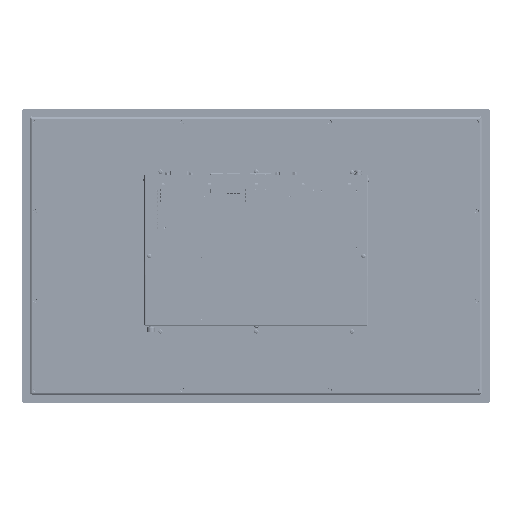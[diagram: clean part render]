
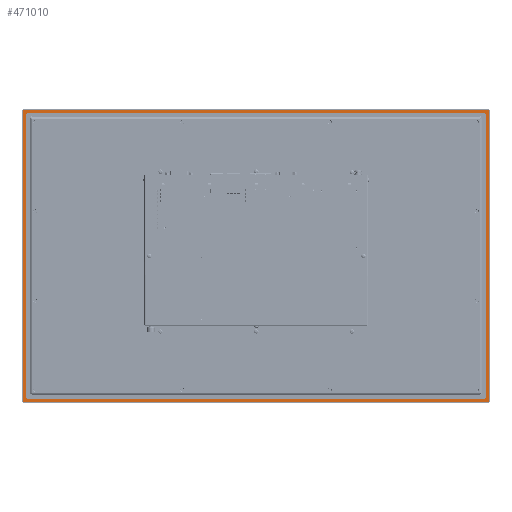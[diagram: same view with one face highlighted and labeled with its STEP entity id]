
A CAD part, front view. The second image highlights one B-rep face of the part: STEP entity #471010.
In plain terms, the highlighted planar face has unit normal (0, -1, 0).
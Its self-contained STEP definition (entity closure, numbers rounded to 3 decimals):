
#9182 = ORIENTED_EDGE ( 'NONE', *, *, #677158, .F. ) ;
#16903 = DIRECTION ( 'NONE',  ( 0., 0., -1. ) ) ;
#29912 = CIRCLE ( 'NONE', #445713, 1. ) ;
#51192 = VECTOR ( 'NONE', #81124, 1000. ) ;
#62782 = LINE ( 'NONE', #727851, #500385 ) ;
#68902 = EDGE_CURVE ( 'NONE', #156977, #246669, #540032, .T. ) ;
#69997 = ORIENTED_EDGE ( 'NONE', *, *, #130875, .F. ) ;
#71321 = ORIENTED_EDGE ( 'NONE', *, *, #796669, .F. ) ;
#71703 = EDGE_CURVE ( 'NONE', #78787, #156977, #340877, .T. ) ;
#78787 = VERTEX_POINT ( 'NONE', #573883 ) ;
#81124 = DIRECTION ( 'NONE',  ( 0., 0., 1. ) ) ;
#85929 = VERTEX_POINT ( 'NONE', #157960 ) ;
#90030 = ORIENTED_EDGE ( 'NONE', *, *, #473868, .F. ) ;
#94276 = LINE ( 'NONE', #256615, #490088 ) ;
#99885 = LINE ( 'NONE', #767823, #771470 ) ;
#111621 = DIRECTION ( 'NONE',  ( 1., 0., 0. ) ) ;
#112781 = CARTESIAN_POINT ( 'NONE',  ( 313.75, 0.5, -190.5 ) ) ;
#117213 = CARTESIAN_POINT ( 'NONE',  ( 318.75, 0.5, 201.5 ) ) ;
#119812 = EDGE_CURVE ( 'NONE', #387744, #671957, #391371, .T. ) ;
#123169 = ORIENTED_EDGE ( 'NONE', *, *, #173456, .F. ) ;
#125785 = DIRECTION ( 'NONE',  ( 0., -1., 0. ) ) ;
#130875 = EDGE_CURVE ( 'NONE', #247308, #713461, #758500, .T. ) ;
#134324 = ORIENTED_EDGE ( 'NONE', *, *, #411364, .F. ) ;
#153912 = CIRCLE ( 'NONE', #570922, 2. ) ;
#156977 = VERTEX_POINT ( 'NONE', #112781 ) ;
#157960 = CARTESIAN_POINT ( 'NONE',  ( 316.75, 0.5, -196.5 ) ) ;
#160614 = EDGE_CURVE ( 'NONE', #742429, #85929, #561798, .T. ) ;
#170498 = FACE_OUTER_BOUND ( 'NONE', #203375, .T. ) ;
#171119 = EDGE_CURVE ( 'NONE', #85929, #666106, #461410, .T. ) ;
#173456 = EDGE_CURVE ( 'NONE', #713461, #78787, #99885, .T. ) ;
#176280 = ORIENTED_EDGE ( 'NONE', *, *, #477402, .F. ) ;
#176489 = CARTESIAN_POINT ( 'NONE',  ( -316.75, 0.5, -196.5 ) ) ;
#190396 = DIRECTION ( 'NONE',  ( 0., -1., 0. ) ) ;
#192114 = VERTEX_POINT ( 'NONE', #323158 ) ;
#192663 = CARTESIAN_POINT ( 'NONE',  ( 316.75, 0.5, 203.5 ) ) ;
#201068 = VERTEX_POINT ( 'NONE', #516742 ) ;
#203375 = EDGE_LOOP ( 'NONE', ( #580602, #358013, #289883, #572632, #763947, #90030, #261939, #616983 ) ) ;
#210343 = AXIS2_PLACEMENT_3D ( 'NONE', #662105, #539671, #280722 ) ;
#224451 = DIRECTION ( 'NONE',  ( 0., 1., 0. ) ) ;
#246669 = VERTEX_POINT ( 'NONE', #410603 ) ;
#247308 = VERTEX_POINT ( 'NONE', #770338 ) ;
#256615 = CARTESIAN_POINT ( 'NONE',  ( -313.75, 0.5, 197.5 ) ) ;
#261939 = ORIENTED_EDGE ( 'NONE', *, *, #171119, .F. ) ;
#267883 = CARTESIAN_POINT ( 'NONE',  ( -318.75, 0.5, 201.5 ) ) ;
#270717 = DIRECTION ( 'NONE',  ( 1., 0., 0. ) ) ;
#280722 = DIRECTION ( 'NONE',  ( 0., 0., 1. ) ) ;
#289883 = ORIENTED_EDGE ( 'NONE', *, *, #119812, .F. ) ;
#294227 = DIRECTION ( 'NONE',  ( 0., 0., -1. ) ) ;
#318497 = DIRECTION ( 'NONE',  ( -1., 0., 0. ) ) ;
#323158 = CARTESIAN_POINT ( 'NONE',  ( -313.75, 0.5, 197.5 ) ) ;
#325941 = EDGE_CURVE ( 'NONE', #782439, #575791, #580285, .T. ) ;
#338912 = VECTOR ( 'NONE', #349625, 1000. ) ;
#340877 = CIRCLE ( 'NONE', #634464, 1. ) ;
#343925 = AXIS2_PLACEMENT_3D ( 'NONE', #503582, #190396, #318497 ) ;
#347235 = DIRECTION ( 'NONE',  ( 0., 0., 1. ) ) ;
#349625 = DIRECTION ( 'NONE',  ( -1., 0., 0. ) ) ;
#352570 = CARTESIAN_POINT ( 'NONE',  ( -316.75, 0.5, 201.5 ) ) ;
#358013 = ORIENTED_EDGE ( 'NONE', *, *, #489377, .F. ) ;
#361017 = CARTESIAN_POINT ( 'NONE',  ( 0., 0.5, 0. ) ) ;
#366934 = VECTOR ( 'NONE', #347235, 1000. ) ;
#387744 = VERTEX_POINT ( 'NONE', #814484 ) ;
#391371 = LINE ( 'NONE', #501358, #442023 ) ;
#399970 = AXIS2_PLACEMENT_3D ( 'NONE', #361017, #434895, #500286 ) ;
#410603 = CARTESIAN_POINT ( 'NONE',  ( 313.75, 0.5, 197.5 ) ) ;
#411364 = EDGE_CURVE ( 'NONE', #246669, #547420, #29912, .T. ) ;
#414007 = DIRECTION ( 'NONE',  ( 0., -1., 0. ) ) ;
#433897 = CIRCLE ( 'NONE', #707789, 1. ) ;
#434895 = DIRECTION ( 'NONE',  ( 0., -1., 0. ) ) ;
#441502 = CARTESIAN_POINT ( 'NONE',  ( 318.75, 0.5, 201.5 ) ) ;
#442023 = VECTOR ( 'NONE', #111621, 1000. ) ;
#445713 = AXIS2_PLACEMENT_3D ( 'NONE', #540748, #472493, #734000 ) ;
#455014 = CIRCLE ( 'NONE', #210343, 2. ) ;
#457931 = VERTEX_POINT ( 'NONE', #117213 ) ;
#461410 = LINE ( 'NONE', #483294, #338912 ) ;
#464286 = CARTESIAN_POINT ( 'NONE',  ( 316.75, 0.5, -194.5 ) ) ;
#471010 = ADVANCED_FACE ( 'NONE', ( #648902, #170498 ), #497472, .T. ) ;
#472493 = DIRECTION ( 'NONE',  ( 0., -1., 0. ) ) ;
#473868 = EDGE_CURVE ( 'NONE', #666106, #782439, #153912, .T. ) ;
#474924 = DIRECTION ( 'NONE',  ( 0., 1., 0. ) ) ;
#477402 = EDGE_CURVE ( 'NONE', #201068, #192114, #433897, .T. ) ;
#483294 = CARTESIAN_POINT ( 'NONE',  ( 316.75, 0.5, -196.5 ) ) ;
#489377 = EDGE_CURVE ( 'NONE', #671957, #457931, #455014, .T. ) ;
#489687 = CARTESIAN_POINT ( 'NONE',  ( 312.75, 0.5, 198.5 ) ) ;
#490088 = VECTOR ( 'NONE', #831276, 1000. ) ;
#495676 = LINE ( 'NONE', #441502, #841603 ) ;
#497472 = PLANE ( 'NONE',  #399970 ) ;
#500286 = DIRECTION ( 'NONE',  ( -1., 0., 0. ) ) ;
#500385 = VECTOR ( 'NONE', #828669, 1000. ) ;
#501358 = CARTESIAN_POINT ( 'NONE',  ( -316.75, 0.5, 203.5 ) ) ;
#503582 = CARTESIAN_POINT ( 'NONE',  ( -312.75, 0.5, -190.5 ) ) ;
#516742 = CARTESIAN_POINT ( 'NONE',  ( -312.75, 0.5, 198.5 ) ) ;
#538819 = ORIENTED_EDGE ( 'NONE', *, *, #71703, .F. ) ;
#539671 = DIRECTION ( 'NONE',  ( 0., 1., 0. ) ) ;
#540032 = LINE ( 'NONE', #745221, #366934 ) ;
#540748 = CARTESIAN_POINT ( 'NONE',  ( 312.75, 0.5, 197.5 ) ) ;
#547420 = VERTEX_POINT ( 'NONE', #489687 ) ;
#551965 = EDGE_LOOP ( 'NONE', ( #123169, #69997, #9182, #176280, #71321, #134324, #574801, #538819 ) ) ;
#561798 = CIRCLE ( 'NONE', #653744, 2. ) ;
#570922 = AXIS2_PLACEMENT_3D ( 'NONE', #665568, #474924, #16903 ) ;
#572632 = ORIENTED_EDGE ( 'NONE', *, *, #738513, .F. ) ;
#573883 = CARTESIAN_POINT ( 'NONE',  ( 312.75, 0.5, -191.5 ) ) ;
#574801 = ORIENTED_EDGE ( 'NONE', *, *, #68902, .F. ) ;
#575791 = VERTEX_POINT ( 'NONE', #267883 ) ;
#577948 = DIRECTION ( 'NONE',  ( 0., 0., -1. ) ) ;
#580285 = LINE ( 'NONE', #669925, #51192 ) ;
#580602 = ORIENTED_EDGE ( 'NONE', *, *, #611256, .F. ) ;
#585854 = DIRECTION ( 'NONE',  ( 1., 0., 0. ) ) ;
#589033 = CARTESIAN_POINT ( 'NONE',  ( -312.75, 0.5, -191.5 ) ) ;
#611256 = EDGE_CURVE ( 'NONE', #457931, #742429, #495676, .T. ) ;
#616983 = ORIENTED_EDGE ( 'NONE', *, *, #160614, .F. ) ;
#622148 = AXIS2_PLACEMENT_3D ( 'NONE', #352570, #224451, #807516 ) ;
#634464 = AXIS2_PLACEMENT_3D ( 'NONE', #806219, #414007, #294227 ) ;
#639531 = CARTESIAN_POINT ( 'NONE',  ( -318.75, 0.5, -194.5 ) ) ;
#648902 = FACE_BOUND ( 'NONE', #551965, .T. ) ;
#653744 = AXIS2_PLACEMENT_3D ( 'NONE', #464286, #660493, #270717 ) ;
#660493 = DIRECTION ( 'NONE',  ( 0., 1., 0. ) ) ;
#662105 = CARTESIAN_POINT ( 'NONE',  ( 316.75, 0.5, 201.5 ) ) ;
#665568 = CARTESIAN_POINT ( 'NONE',  ( -316.75, 0.5, -194.5 ) ) ;
#666106 = VERTEX_POINT ( 'NONE', #176489 ) ;
#669925 = CARTESIAN_POINT ( 'NONE',  ( -318.75, 0.5, -194.5 ) ) ;
#671957 = VERTEX_POINT ( 'NONE', #192663 ) ;
#677158 = EDGE_CURVE ( 'NONE', #192114, #247308, #94276, .T. ) ;
#683145 = CIRCLE ( 'NONE', #622148, 2. ) ;
#707789 = AXIS2_PLACEMENT_3D ( 'NONE', #708849, #125785, #771375 ) ;
#708849 = CARTESIAN_POINT ( 'NONE',  ( -312.75, 0.5, 197.5 ) ) ;
#713461 = VERTEX_POINT ( 'NONE', #589033 ) ;
#727851 = CARTESIAN_POINT ( 'NONE',  ( 312.75, 0.5, 198.5 ) ) ;
#734000 = DIRECTION ( 'NONE',  ( 1., 0., 0. ) ) ;
#738513 = EDGE_CURVE ( 'NONE', #575791, #387744, #683145, .T. ) ;
#742429 = VERTEX_POINT ( 'NONE', #770322 ) ;
#745221 = CARTESIAN_POINT ( 'NONE',  ( 313.75, 0.5, -190.5 ) ) ;
#758500 = CIRCLE ( 'NONE', #343925, 1. ) ;
#763947 = ORIENTED_EDGE ( 'NONE', *, *, #325941, .F. ) ;
#767823 = CARTESIAN_POINT ( 'NONE',  ( -312.75, 0.5, -191.5 ) ) ;
#770322 = CARTESIAN_POINT ( 'NONE',  ( 318.75, 0.5, -194.5 ) ) ;
#770338 = CARTESIAN_POINT ( 'NONE',  ( -313.75, 0.5, -190.5 ) ) ;
#771375 = DIRECTION ( 'NONE',  ( 0., 0., 1. ) ) ;
#771470 = VECTOR ( 'NONE', #585854, 1000. ) ;
#782439 = VERTEX_POINT ( 'NONE', #639531 ) ;
#796669 = EDGE_CURVE ( 'NONE', #547420, #201068, #62782, .T. ) ;
#806219 = CARTESIAN_POINT ( 'NONE',  ( 312.75, 0.5, -190.5 ) ) ;
#807516 = DIRECTION ( 'NONE',  ( -1., 0., 0. ) ) ;
#814484 = CARTESIAN_POINT ( 'NONE',  ( -316.75, 0.5, 203.5 ) ) ;
#828669 = DIRECTION ( 'NONE',  ( -1., 0., 0. ) ) ;
#831276 = DIRECTION ( 'NONE',  ( 0., 0., -1. ) ) ;
#841603 = VECTOR ( 'NONE', #577948, 1000. ) ;
